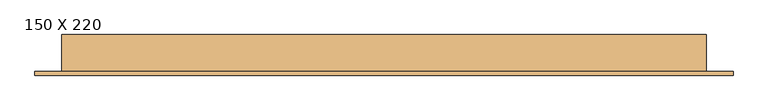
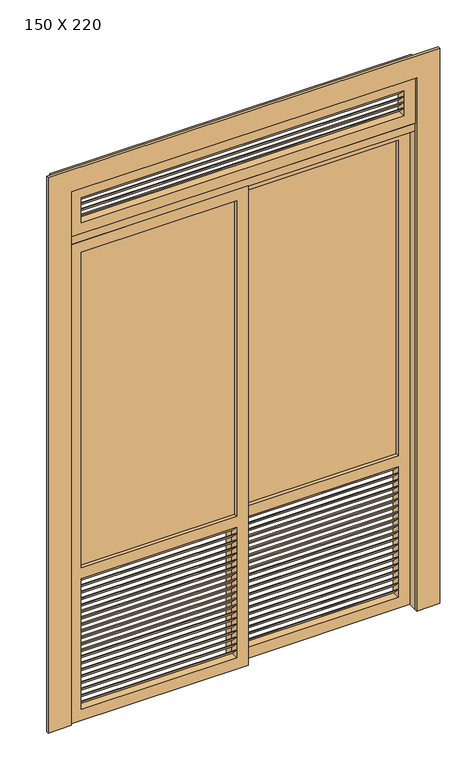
"""IFC4 building model written with IfcOpenShell, lengths in millimetres: door geometry, PORTA DE VIDRO COM ESQUADRIA DE CORRER COM GRELHA - 2 FOLHAS + BANDEIRA VENEZIANA FIXA - 1 FOLHA : 150 X 220."""

import ifcopenshell
import ifcopenshell.guid

model = None  # the IFC model being written
_history = None  # IfcOwnerHistory: only IFC2X3 demands one
_inside = {}  # id of a spatial element -> (the spatial element, [elements in it])
_under = {}  # id of a project, library or spatial element -> (it, [spatial elements below it])
_declared = {}  # id of a project -> (the project, [libraries it declares])
_typed = {}  # id of a type object -> (the type object, [elements of that type])
_made_of = {}  # id of a material, layer set ... -> (it, [elements and type objects made of it])


def new_model(schema):
    """Start an empty IFC model of exactly this schema.

    Asked for "IFC4X3", IfcOpenShell would pick the latest addendum, in which some entities
    have other attributes; the version numbers below select the first issue.
    IFC2X3 requires an IfcOwnerHistory on every rooted entity: one is made here for all.
    """
    global model, _history
    if schema == "IFC4X3":
        model = ifcopenshell.file(schema_version=(4, 3, 0, 0))
    else:
        model = ifcopenshell.file(schema=schema)
    _inside.clear()
    _under.clear()
    _declared.clear()
    _typed.clear()
    _made_of.clear()
    _history = None
    if model.schema == "IFC2X3":
        org = make("IfcOrganization", Name="unknown")
        user = make(
            "IfcPersonAndOrganization",
            ThePerson=make("IfcPerson", FamilyName="unknown"),
            TheOrganization=org,
        )
        app = make(
            "IfcApplication",
            ApplicationDeveloper=org,
            Version="unknown",
            ApplicationFullName="unknown",
            ApplicationIdentifier="unknown",
        )
        _history = make(
            "IfcOwnerHistory",
            OwningUser=user,
            OwningApplication=app,
            ChangeAction="ADDED",
            CreationDate=0,
        )
    return model


def make(cls, **values):
    """One entity of the class cls with the attributes given. An attribute that is None is left unset."""
    return model.create_entity(
        cls, **{name: value for name, value in values.items() if value is not None}
    )


def rooted(cls, **values):
    """An entity with a GlobalId (a new one), such as an element, a storey or a relation."""
    return make(cls, GlobalId=ifcopenshell.guid.new(), OwnerHistory=_history, **values)


def si_unit(unit_type, name, prefix=None):
    """IfcSIUnit, for example si_unit("LENGTHUNIT", "METRE", prefix="MILLI")."""
    return make("IfcSIUnit", UnitType=unit_type, Prefix=prefix, Name=name)


def assignment(units):
    """IfcUnitAssignment: the units of a project."""
    return None if units is None else make("IfcUnitAssignment", Units=units)


def point(xyz):
    """IfcCartesianPoint."""
    return None if xyz is None else make("IfcCartesianPoint", Coordinates=xyz)


def direction(xyz):
    """IfcDirection."""
    return None if xyz is None else make("IfcDirection", DirectionRatios=xyz)


def frame(location, z_axis=None, x_axis=None):
    """IfcAxis2Placement3D, a coordinate frame: its origin and axes. An axis left out is left unset."""
    return make(
        "IfcAxis2Placement3D",
        Location=point(location),
        Axis=direction(z_axis),
        RefDirection=direction(x_axis),
    )


def origin():
    """The frame at (0, 0, 0) with its axes left unset."""
    return frame((0.0, 0.0, 0.0))


def place(relative_to, where):
    """IfcLocalPlacement: puts the frame where relative to a parent placement (None: the world)."""
    return make(
        "IfcLocalPlacement", PlacementRelTo=relative_to, RelativePlacement=where
    )


def context(
    kind, dimensions, precision=None, world=None, true_north=None, identifier=None
):
    """IfcGeometricRepresentationContext, for example the 3D "Model" context."""
    return make(
        "IfcGeometricRepresentationContext",
        ContextIdentifier=identifier,
        ContextType=kind,
        CoordinateSpaceDimension=dimensions,
        Precision=precision,
        WorldCoordinateSystem=world,
        TrueNorth=true_north,
    )


def project(units=None, contexts=None):
    """IfcProject with its units and contexts."""
    return rooted(
        "IfcProject",
        Name="project",
        RepresentationContexts=contexts,
        UnitsInContext=assignment(units),
    )


def spatial(cls, under=None, at=None, **own):
    """A site, building, storey or space (cls), placed at a placement, below another one or the project."""
    s = rooted(cls, ObjectPlacement=at, **own)
    if under is not None:
        _under.setdefault(under.id(), (under, []))[1].append(s)
    return s


def polyline(points):
    """IfcPolyline through the points."""
    return make("IfcPolyline", Points=[point(p) for p in points])


def outline(outer, holes=None, kind="AREA"):
    """IfcArbitraryClosedProfileDef: a profile drawn as a closed curve; with holes, ...WithVoids."""
    if holes is None:
        return make("IfcArbitraryClosedProfileDef", ProfileType=kind, OuterCurve=outer)
    return make(
        "IfcArbitraryProfileDefWithVoids",
        ProfileType=kind,
        OuterCurve=outer,
        InnerCurves=holes,
    )


def extrude(swept, where, along, depth):
    """IfcExtrudedAreaSolid: the profile swept, set in the frame where, extruded along a direction by depth."""
    return make(
        "IfcExtrudedAreaSolid",
        SweptArea=swept,
        Position=where,
        ExtrudedDirection=direction(along),
        Depth=depth,
    )


def shape(context_of_items, identifier, shape_type, items):
    """IfcShapeRepresentation: the items that make up one representation, for example the "Body"."""
    return make(
        "IfcShapeRepresentation",
        ContextOfItems=context_of_items,
        RepresentationIdentifier=identifier,
        RepresentationType=shape_type,
        Items=items,
    )


def source(mapping_origin, context_of_items, identifier, shape_type, items):
    """IfcRepresentationMap: a shape defined once, which mapped items show again and again."""
    return make(
        "IfcRepresentationMap",
        MappingOrigin=mapping_origin,
        MappedRepresentation=shape(context_of_items, identifier, shape_type, items),
    )


def transform(
    local_origin,
    x_axis=None,
    y_axis=None,
    z_axis=None,
    scale=None,
    scale2=None,
    scale3=None,
    uniform=True,
):
    """IfcCartesianTransformationOperator3D, or its non-uniform kind. x_axis, y_axis, z_axis: its Axis1, 2, 3."""
    if uniform:
        return make(
            "IfcCartesianTransformationOperator3D",
            Axis1=direction(x_axis),
            Axis2=direction(y_axis),
            LocalOrigin=point(local_origin),
            Scale=scale,
            Axis3=direction(z_axis),
        )
    return make(
        "IfcCartesianTransformationOperator3DnonUniform",
        Axis1=direction(x_axis),
        Axis2=direction(y_axis),
        LocalOrigin=point(local_origin),
        Scale=scale,
        Axis3=direction(z_axis),
        Scale2=scale2,
        Scale3=scale3,
    )


def mapped(mapping_source, mapping_target):
    """IfcMappedItem: shows the shape of a source again, moved by a transform."""
    return make(
        "IfcMappedItem", MappingSource=mapping_source, MappingTarget=mapping_target
    )


def made_of(thing, what):
    """Note that an element or type object is made of a material, layer set ...; save() writes the relation."""
    if what is not None:
        _made_of.setdefault(what.id(), (what, []))[1].append(thing)
    return thing


def element(
    cls,
    number,
    at=None,
    inside=None,
    cuts=None,
    type_object=None,
    material=None,
    context=None,
    identifier="Body",
    shape_type=None,
    held_by="IfcProductDefinitionShape",
    body=None,
    shapes=None,
    **own,
):
    """One element of the class cls, such as IfcWall. Its Tag is "e" and its number.

    at: its placement. inside: the storey or other place that contains it. cuts: it is an
    opening in that element (IfcRelVoidsElement). A single representation is given by context,
    identifier, shape_type and body (its items); several are given by shapes. held_by: the class
    of the entity that holds the representations. save() writes the other relations.
    """
    e = rooted(cls, Tag="e%d" % number, ObjectPlacement=at, **own)
    if body is not None:
        shapes = [shape(context, identifier, shape_type, body)]
    if shapes is not None:
        e.Representation = make(held_by, Representations=shapes)
    if inside is not None:
        _inside.setdefault(inside.id(), (inside, []))[1].append(e)
    if cuts is not None:
        rooted(
            "IfcRelVoidsElement", RelatingBuildingElement=cuts, RelatedOpeningElement=e
        )
    if type_object is not None:
        _typed.setdefault(type_object.id(), (type_object, []))[1].append(e)
    return made_of(e, material)


def aggregate(whole, parts):
    """IfcRelAggregates: a whole, such as a stair, and the parts it consists of."""
    return rooted("IfcRelAggregates", RelatingObject=whole, RelatedObjects=parts)


def save(model, path):
    """Write the relations noted so far, then the file.

    IfcRelAggregates (storeys below a building ...), IfcRelContainedInSpatialStructure (elements
    in a storey), IfcRelDefinesByType, IfcRelAssociatesMaterial and IfcRelDeclares: one each for
    every whole, place, type object, material and project.
    """
    for whole, parts in _under.values():
        aggregate(whole, parts)
    for where, things in _inside.values():
        rooted(
            "IfcRelContainedInSpatialStructure",
            RelatedElements=things,
            RelatingStructure=where,
        )
    for kind, things in _typed.values():
        rooted("IfcRelDefinesByType", RelatedObjects=things, RelatingType=kind)
    for what, things in _made_of.values():
        rooted("IfcRelAssociatesMaterial", RelatedObjects=things, RelatingMaterial=what)
    for by, libraries in _declared.values():
        rooted("IfcRelDeclares", RelatingContext=by, RelatedDefinitions=libraries)
    model.write(path)


def door_150_x_220_97c69609(model_context):
    return source(origin(), model_context, "Body", "SweptSolid", [
        extrude(outline(polyline([(-40.0, 585.2631579), (-75.0, 620.2631579), (-70.0, 620.2631579), (-35.0, 585.2631579), (-40.0, 585.2631579)])), frame((-620.0, 0.0, 0.0), z_axis=(1.0, 0.0, 0.0), x_axis=(0.0, 1.0, 0.0)), (0.0, 0.0, 1.0), 675.0),
        extrude(outline(polyline([(-40.0, 555.5263158), (-75.0, 590.5263158), (-70.0, 590.5263158), (-35.0, 555.5263158), (-40.0, 555.5263158)])), frame((-620.0, 0.0, 0.0), z_axis=(1.0, 0.0, 0.0), x_axis=(0.0, 1.0, 0.0)), (0.0, 0.0, 1.0), 675.0),
        extrude(outline(polyline([(-40.0, 525.7894737), (-75.0, 560.7894737), (-70.0, 560.7894737), (-35.0, 525.7894737), (-40.0, 525.7894737)])), frame((-620.0, 0.0, 0.0), z_axis=(1.0, 0.0, 0.0), x_axis=(0.0, 1.0, 0.0)), (0.0, 0.0, 1.0), 675.0),
        extrude(outline(polyline([(-40.0, 496.0526316), (-75.0, 531.0526316), (-70.0, 531.0526316), (-35.0, 496.0526316), (-40.0, 496.0526316)])), frame((-620.0, 0.0, 0.0), z_axis=(1.0, 0.0, 0.0), x_axis=(0.0, 1.0, 0.0)), (0.0, 0.0, 1.0), 675.0),
        extrude(outline(polyline([(-40.0, 466.3157895), (-75.0, 501.3157895), (-70.0, 501.3157895), (-35.0, 466.3157895), (-40.0, 466.3157895)])), frame((-620.0, 0.0, 0.0), z_axis=(1.0, 0.0, 0.0), x_axis=(0.0, 1.0, 0.0)), (0.0, 0.0, 1.0), 675.0),
        extrude(outline(polyline([(-40.0, 436.5789474), (-75.0, 471.5789474), (-70.0, 471.5789474), (-35.0, 436.5789474), (-40.0, 436.5789474)])), frame((-620.0, 0.0, 0.0), z_axis=(1.0, 0.0, 0.0), x_axis=(0.0, 1.0, 0.0)), (0.0, 0.0, 1.0), 675.0),
        extrude(outline(polyline([(-40.0, 406.8421053), (-75.0, 441.8421053), (-70.0, 441.8421053), (-35.0, 406.8421053), (-40.0, 406.8421053)])), frame((-620.0, 0.0, 0.0), z_axis=(1.0, 0.0, 0.0), x_axis=(0.0, 1.0, 0.0)), (0.0, 0.0, 1.0), 675.0),
        extrude(outline(polyline([(-40.0, 377.1052632), (-75.0, 412.1052632), (-70.0, 412.1052632), (-35.0, 377.1052632), (-40.0, 377.1052632)])), frame((-620.0, 0.0, 0.0), z_axis=(1.0, 0.0, 0.0), x_axis=(0.0, 1.0, 0.0)), (0.0, 0.0, 1.0), 675.0),
        extrude(outline(polyline([(-40.0, 347.3684211), (-75.0, 382.3684211), (-70.0, 382.3684211), (-35.0, 347.3684211), (-40.0, 347.3684211)])), frame((-620.0, 0.0, 0.0), z_axis=(1.0, 0.0, 0.0), x_axis=(0.0, 1.0, 0.0)), (0.0, 0.0, 1.0), 675.0),
        extrude(outline(polyline([(-40.0, 317.6315789), (-75.0, 352.6315789), (-70.0, 352.6315789), (-35.0, 317.6315789), (-40.0, 317.6315789)])), frame((-620.0, 0.0, 0.0), z_axis=(1.0, 0.0, 0.0), x_axis=(0.0, 1.0, 0.0)), (0.0, 0.0, 1.0), 675.0),
        extrude(outline(polyline([(-40.0, 287.8947368), (-75.0, 322.8947368), (-70.0, 322.8947368), (-35.0, 287.8947368), (-40.0, 287.8947368)])), frame((-620.0, 0.0, 0.0), z_axis=(1.0, 0.0, 0.0), x_axis=(0.0, 1.0, 0.0)), (0.0, 0.0, 1.0), 675.0),
        extrude(outline(polyline([(-40.0, 258.1578947), (-75.0, 293.1578947), (-70.0, 293.1578947), (-35.0, 258.1578947), (-40.0, 258.1578947)])), frame((-620.0, 0.0, 0.0), z_axis=(1.0, 0.0, 0.0), x_axis=(0.0, 1.0, 0.0)), (0.0, 0.0, 1.0), 675.0),
        extrude(outline(polyline([(-40.0, 228.4210526), (-75.0, 263.4210526), (-70.0, 263.4210526), (-35.0, 228.4210526), (-40.0, 228.4210526)])), frame((-620.0, 0.0, 0.0), z_axis=(1.0, 0.0, 0.0), x_axis=(0.0, 1.0, 0.0)), (0.0, 0.0, 1.0), 675.0),
        extrude(outline(polyline([(-40.0, 198.6842105), (-75.0, 233.6842105), (-70.0, 233.6842105), (-35.0, 198.6842105), (-40.0, 198.6842105)])), frame((-620.0, 0.0, 0.0), z_axis=(1.0, 0.0, 0.0), x_axis=(0.0, 1.0, 0.0)), (0.0, 0.0, 1.0), 675.0),
        extrude(outline(polyline([(-40.0, 168.9473684), (-75.0, 203.9473684), (-70.0, 203.9473684), (-35.0, 168.9473684), (-40.0, 168.9473684)])), frame((-620.0, 0.0, 0.0), z_axis=(1.0, 0.0, 0.0), x_axis=(0.0, 1.0, 0.0)), (0.0, 0.0, 1.0), 675.0),
        extrude(outline(polyline([(-40.0, 139.2105263), (-75.0, 174.2105263), (-70.0, 174.2105263), (-35.0, 139.2105263), (-40.0, 139.2105263)])), frame((-620.0, 0.0, 0.0), z_axis=(1.0, 0.0, 0.0), x_axis=(0.0, 1.0, 0.0)), (0.0, 0.0, 1.0), 675.0),
        extrude(outline(polyline([(-40.0, 109.4736842), (-75.0, 144.4736842), (-70.0, 144.4736842), (-35.0, 109.4736842), (-40.0, 109.4736842)])), frame((-620.0, 0.0, 0.0), z_axis=(1.0, 0.0, 0.0), x_axis=(0.0, 1.0, 0.0)), (0.0, 0.0, 1.0), 675.0),
        extrude(outline(polyline([(-40.0, 79.7368421), (-75.0, 114.7368421), (-70.0, 114.7368421), (-35.0, 79.7368421), (-40.0, 79.7368421)])), frame((-620.0, 0.0, 0.0), z_axis=(1.0, 0.0, 0.0), x_axis=(0.0, 1.0, 0.0)), (0.0, 0.0, 1.0), 675.0),
        extrude(outline(polyline([(-40.0, 615.0), (-75.0, 650.0), (-70.0, 650.0), (-35.0, 615.0), (-40.0, 615.0)])), frame((-620.0, 0.0, 0.0), z_axis=(1.0, 0.0, 0.0), x_axis=(0.0, 1.0, 0.0)), (0.0, 0.0, 1.0), 675.0),
        extrude(outline(polyline([(-40.0, 50.0), (-75.0, 85.0), (-70.0, 85.0), (-35.0, 50.0), (-40.0, 50.0)])), frame((-620.0, 0.0, 0.0), z_axis=(1.0, 0.0, 0.0), x_axis=(0.0, 1.0, 0.0)), (0.0, 0.0, 1.0), 675.0),
        extrude(outline(polyline([(-620.0, -52.0), (55.0, -52.0), (55.0, -58.0), (-620.0, -58.0), (-620.0, -52.0)])), frame((0.0, 0.0, 700.0), z_axis=(0.0, 0.0, 1.0), x_axis=(1.0, 0.0, 0.0)), (0.0, 0.0, 1.0), 1450.0),
        extrude(outline(polyline([(2200.0, -670.0), (0.0, -670.0), (0.0, 105.0), (2200.0, 105.0), (2200.0, -670.0)]), holes=[polyline([(2150.0, -620.0), (2150.0, 55.0), (700.0, 55.0), (700.0, -620.0), (2150.0, -620.0)]), polyline([(650.0, 55.0), (50.0, 55.0), (50.0, -620.0), (650.0, -620.0), (650.0, 55.0)])]), frame((0.0, -75.0, 0.0), z_axis=(0.0, 1.0, 0.0), x_axis=(0.0, 0.0, 1.0)), (0.0, 0.0, 1.0), 40.0),
        extrude(outline(polyline([(-40.0, 2338.3333333), (-75.0, 2373.3333333), (-70.0, 2373.3333333), (-35.0, 2338.3333333), (-40.0, 2338.3333333)])), frame((-620.0, 0.0, 0.0), z_axis=(1.0, 0.0, 0.0), x_axis=(0.0, 1.0, 0.0)), (0.0, 0.0, 1.0), 1400.0),
        extrude(outline(polyline([(-40.0, 2311.6666667), (-75.0, 2346.6666667), (-70.0, 2346.6666667), (-35.0, 2311.6666667), (-40.0, 2311.6666667)])), frame((-620.0, 0.0, 0.0), z_axis=(1.0, 0.0, 0.0), x_axis=(0.0, 1.0, 0.0)), (0.0, 0.0, 1.0), 1400.0),
        extrude(outline(polyline([(-40.0, 2365.0), (-75.0, 2400.0), (-70.0, 2400.0), (-35.0, 2365.0), (-40.0, 2365.0)])), frame((-620.0, 0.0, 0.0), z_axis=(1.0, 0.0, 0.0), x_axis=(0.0, 1.0, 0.0)), (0.0, 0.0, 1.0), 1400.0),
        extrude(outline(polyline([(-40.0, 2285.0), (-75.0, 2320.0), (-70.0, 2320.0), (-35.0, 2285.0), (-40.0, 2285.0)])), frame((-620.0, 0.0, 0.0), z_axis=(1.0, 0.0, 0.0), x_axis=(0.0, 1.0, 0.0)), (0.0, 0.0, 1.0), 1400.0),
        extrude(outline(polyline([(2450.0, 830.0), (2450.0, -670.0), (2235.0, -670.0), (2235.0, 830.0), (2450.0, 830.0)]), holes=[polyline([(2400.0, 780.0), (2285.0, 780.0), (2285.0, -620.0), (2400.0, -620.0), (2400.0, 780.0)])]), frame((0.0, -75.0, 0.0), z_axis=(0.0, 1.0, 0.0), x_axis=(0.0, 0.0, 1.0)), (0.0, 0.0, 1.0), 40.0),
        extrude(outline(polyline([(0.0, 585.2631579), (-35.0, 620.2631579), (-30.0, 620.2631579), (5.0, 585.2631579), (0.0, 585.2631579)])), frame((105.0, 0.0, 0.0), z_axis=(1.0, 0.0, 0.0), x_axis=(0.0, 1.0, 0.0)), (0.0, 0.0, 1.0), 675.0),
        extrude(outline(polyline([(0.0, 555.5263158), (-35.0, 590.5263158), (-30.0, 590.5263158), (5.0, 555.5263158), (0.0, 555.5263158)])), frame((105.0, 0.0, 0.0), z_axis=(1.0, 0.0, 0.0), x_axis=(0.0, 1.0, 0.0)), (0.0, 0.0, 1.0), 675.0),
        extrude(outline(polyline([(0.0, 525.7894737), (-35.0, 560.7894737), (-30.0, 560.7894737), (5.0, 525.7894737), (0.0, 525.7894737)])), frame((105.0, 0.0, 0.0), z_axis=(1.0, 0.0, 0.0), x_axis=(0.0, 1.0, 0.0)), (0.0, 0.0, 1.0), 675.0),
        extrude(outline(polyline([(0.0, 496.0526316), (-35.0, 531.0526316), (-30.0, 531.0526316), (5.0, 496.0526316), (0.0, 496.0526316)])), frame((105.0, 0.0, 0.0), z_axis=(1.0, 0.0, 0.0), x_axis=(0.0, 1.0, 0.0)), (0.0, 0.0, 1.0), 675.0),
        extrude(outline(polyline([(0.0, 466.3157895), (-35.0, 501.3157895), (-30.0, 501.3157895), (5.0, 466.3157895), (0.0, 466.3157895)])), frame((105.0, 0.0, 0.0), z_axis=(1.0, 0.0, 0.0), x_axis=(0.0, 1.0, 0.0)), (0.0, 0.0, 1.0), 675.0),
        extrude(outline(polyline([(0.0, 436.5789474), (-35.0, 471.5789474), (-30.0, 471.5789474), (5.0, 436.5789474), (0.0, 436.5789474)])), frame((105.0, 0.0, 0.0), z_axis=(1.0, 0.0, 0.0), x_axis=(0.0, 1.0, 0.0)), (0.0, 0.0, 1.0), 675.0),
        extrude(outline(polyline([(0.0, 406.8421053), (-35.0, 441.8421053), (-30.0, 441.8421053), (5.0, 406.8421053), (0.0, 406.8421053)])), frame((105.0, 0.0, 0.0), z_axis=(1.0, 0.0, 0.0), x_axis=(0.0, 1.0, 0.0)), (0.0, 0.0, 1.0), 675.0),
        extrude(outline(polyline([(0.0, 377.1052632), (-35.0, 412.1052632), (-30.0, 412.1052632), (5.0, 377.1052632), (0.0, 377.1052632)])), frame((105.0, 0.0, 0.0), z_axis=(1.0, 0.0, 0.0), x_axis=(0.0, 1.0, 0.0)), (0.0, 0.0, 1.0), 675.0),
        extrude(outline(polyline([(0.0, 347.3684211), (-35.0, 382.3684211), (-30.0, 382.3684211), (5.0, 347.3684211), (0.0, 347.3684211)])), frame((105.0, 0.0, 0.0), z_axis=(1.0, 0.0, 0.0), x_axis=(0.0, 1.0, 0.0)), (0.0, 0.0, 1.0), 675.0),
        extrude(outline(polyline([(0.0, 317.6315789), (-35.0, 352.6315789), (-30.0, 352.6315789), (5.0, 317.6315789), (0.0, 317.6315789)])), frame((105.0, 0.0, 0.0), z_axis=(1.0, 0.0, 0.0), x_axis=(0.0, 1.0, 0.0)), (0.0, 0.0, 1.0), 675.0),
        extrude(outline(polyline([(0.0, 287.8947368), (-35.0, 322.8947368), (-30.0, 322.8947368), (5.0, 287.8947368), (0.0, 287.8947368)])), frame((105.0, 0.0, 0.0), z_axis=(1.0, 0.0, 0.0), x_axis=(0.0, 1.0, 0.0)), (0.0, 0.0, 1.0), 675.0),
        extrude(outline(polyline([(0.0, 258.1578947), (-35.0, 293.1578947), (-30.0, 293.1578947), (5.0, 258.1578947), (0.0, 258.1578947)])), frame((105.0, 0.0, 0.0), z_axis=(1.0, 0.0, 0.0), x_axis=(0.0, 1.0, 0.0)), (0.0, 0.0, 1.0), 675.0),
        extrude(outline(polyline([(0.0, 228.4210526), (-35.0, 263.4210526), (-30.0, 263.4210526), (5.0, 228.4210526), (0.0, 228.4210526)])), frame((105.0, 0.0, 0.0), z_axis=(1.0, 0.0, 0.0), x_axis=(0.0, 1.0, 0.0)), (0.0, 0.0, 1.0), 675.0),
        extrude(outline(polyline([(0.0, 198.6842105), (-35.0, 233.6842105), (-30.0, 233.6842105), (5.0, 198.6842105), (0.0, 198.6842105)])), frame((105.0, 0.0, 0.0), z_axis=(1.0, 0.0, 0.0), x_axis=(0.0, 1.0, 0.0)), (0.0, 0.0, 1.0), 675.0),
        extrude(outline(polyline([(0.0, 168.9473684), (-35.0, 203.9473684), (-30.0, 203.9473684), (5.0, 168.9473684), (0.0, 168.9473684)])), frame((105.0, 0.0, 0.0), z_axis=(1.0, 0.0, 0.0), x_axis=(0.0, 1.0, 0.0)), (0.0, 0.0, 1.0), 675.0),
        extrude(outline(polyline([(0.0, 139.2105263), (-35.0, 174.2105263), (-30.0, 174.2105263), (5.0, 139.2105263), (0.0, 139.2105263)])), frame((105.0, 0.0, 0.0), z_axis=(1.0, 0.0, 0.0), x_axis=(0.0, 1.0, 0.0)), (0.0, 0.0, 1.0), 675.0),
        extrude(outline(polyline([(0.0, 109.4736842), (-35.0, 144.4736842), (-30.0, 144.4736842), (5.0, 109.4736842), (0.0, 109.4736842)])), frame((105.0, 0.0, 0.0), z_axis=(1.0, 0.0, 0.0), x_axis=(0.0, 1.0, 0.0)), (0.0, 0.0, 1.0), 675.0),
        extrude(outline(polyline([(0.0, 79.7368421), (-35.0, 114.7368421), (-30.0, 114.7368421), (5.0, 79.7368421), (0.0, 79.7368421)])), frame((105.0, 0.0, 0.0), z_axis=(1.0, 0.0, 0.0), x_axis=(0.0, 1.0, 0.0)), (0.0, 0.0, 1.0), 675.0),
        extrude(outline(polyline([(0.0, 615.0), (-35.0, 650.0), (-30.0, 650.0), (5.0, 615.0), (0.0, 615.0)])), frame((105.0, 0.0, 0.0), z_axis=(1.0, 0.0, 0.0), x_axis=(0.0, 1.0, 0.0)), (0.0, 0.0, 1.0), 675.0),
        extrude(outline(polyline([(0.0, 50.0), (-35.0, 85.0), (-30.0, 85.0), (5.0, 50.0), (0.0, 50.0)])), frame((105.0, 0.0, 0.0), z_axis=(1.0, 0.0, 0.0), x_axis=(0.0, 1.0, 0.0)), (0.0, 0.0, 1.0), 675.0),
        extrude(outline(polyline([(780.0, -12.0), (780.0, -18.0), (105.0, -18.0), (105.0, -12.0), (780.0, -12.0)])), frame((0.0, 0.0, 700.0), z_axis=(0.0, 0.0, 1.0), x_axis=(1.0, 0.0, 0.0)), (0.0, 0.0, 1.0), 1450.0),
        extrude(outline(polyline([(2200.0, 830.0), (2200.0, 55.0), (0.0, 55.0), (0.0, 830.0), (2200.0, 830.0)]), holes=[polyline([(2150.0, 780.0), (700.0, 780.0), (700.0, 105.0), (2150.0, 105.0), (2150.0, 780.0)]), polyline([(650.0, 105.0), (650.0, 780.0), (50.0, 780.0), (50.0, 105.0), (650.0, 105.0)])]), frame((0.0, -35.0, 0.0), z_axis=(0.0, 1.0, 0.0), x_axis=(0.0, 0.0, 1.0)), (0.0, 0.0, 1.0), 40.0),
        extrude(outline(polyline([(2450.0, -670.0), (2450.0, 830.0), (0.0, 830.0), (0.0, 930.0), (2550.0, 930.0), (2550.0, -770.0), (0.0, -770.0), (0.0, -670.0), (2450.0, -670.0)])), frame((0.0, -85.0, 0.0), z_axis=(0.0, 1.0, 0.0), x_axis=(0.0, 0.0, 1.0)), (0.0, 0.0, 1.0), 10.0),
        extrude(outline(polyline([(0.0, -705.0), (0.0, -670.0), (2200.0, -670.0), (2200.0, 830.0), (0.0, 830.0), (0.0, 865.0), (2485.0, 865.0), (2485.0, -705.0), (0.0, -705.0)]), holes=[polyline([(2235.0, 830.0), (2235.0, -670.0), (2450.0, -670.0), (2450.0, 830.0), (2235.0, 830.0)])]), frame((0.0, -75.0, 0.0), z_axis=(0.0, 1.0, 0.0), x_axis=(0.0, 0.0, 1.0)), (0.0, 0.0, 1.0), 90.0),
    ])


if __name__ == "__main__":
    model = new_model("IFC4")
    model_context = context("Model", 3, world=origin())
    ifc_project = project(units=[si_unit("LENGTHUNIT", "METRE", prefix="MILLI")], contexts=[model_context])
    site = spatial("IfcSite", under=ifc_project)
    building = spatial("IfcBuilding", under=site)
    placement = place(None, origin())
    door_150_x_220_shape = door_150_x_220_97c69609(model_context)
    element("IfcDoor", 1, ObjectType="PORTA DE VIDRO COM ESQUADRIA DE CORRER COM GRELHA - 2 FOLHAS + BANDEIRA VENEZIANA FIXA - 1 FOLHA : 150 X 220", at=placement, inside=building, context=model_context, shape_type="MappedRepresentation", body=[
        mapped(door_150_x_220_shape, transform((0.0, 0.0, 0.0), x_axis=(1.0, 0.0, 0.0), y_axis=(0.0, 1.0, 0.0), z_axis=(0.0, 0.0, 1.0))),
    ])
    save(model, "model.ifc")
